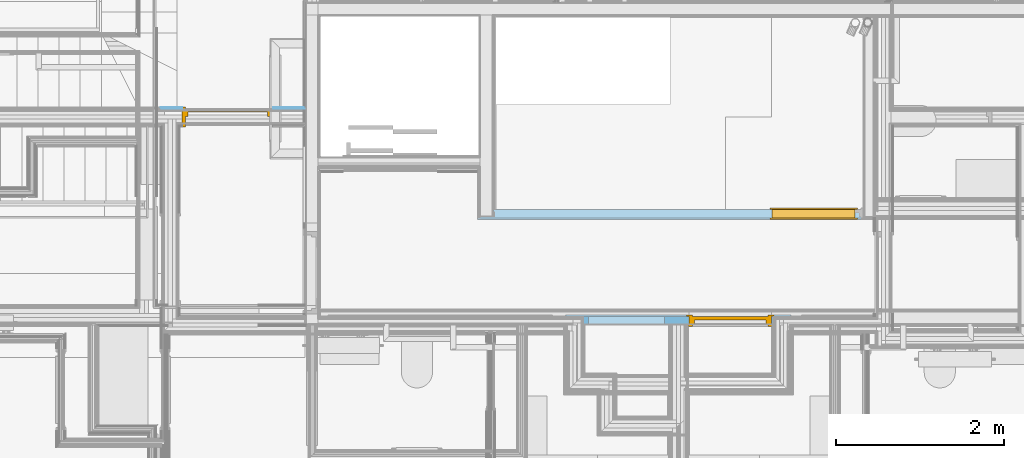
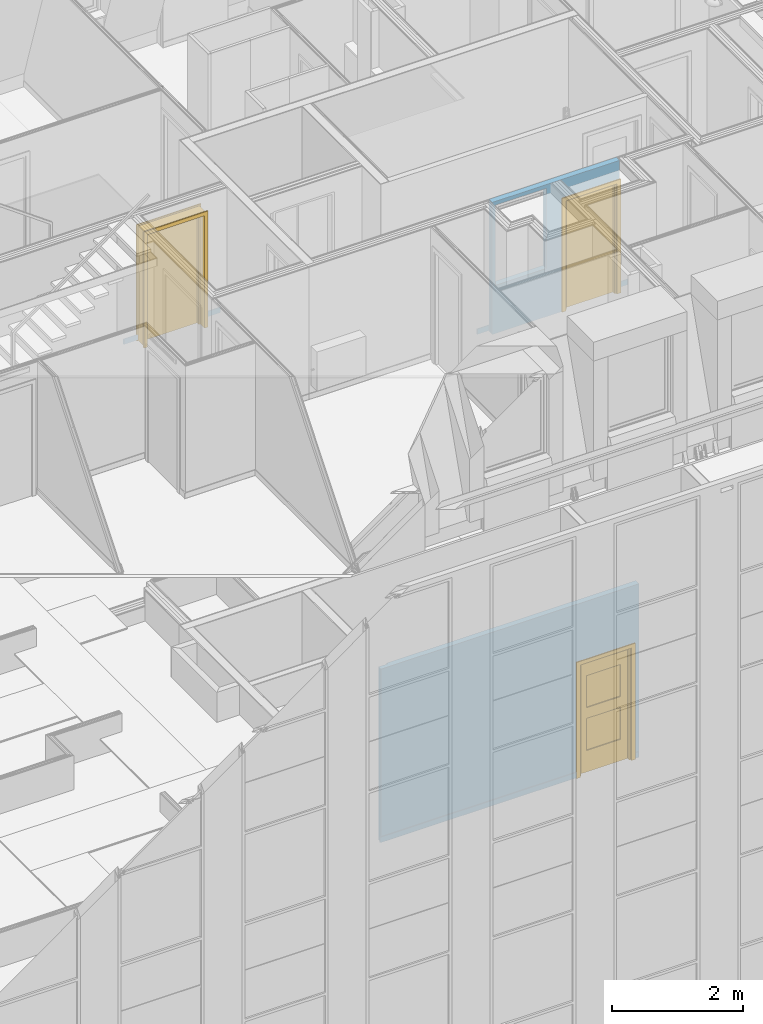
# One storey, part 83 of 169: 3 doors, 4 openings, plus 3 elements that do not belong to this part.
"""IFC2X3 building model written with IfcOpenShell, lengths in metres."""

from ifc_helpers import new_model, entity, si_unit, converted_unit, derived_unit, money_unit, direction, frame, frame_2d, origin_with_axes, place, context, subcontext, project, spatial, polyline, rectangle, outline, extrude, clip, bounded_halfspace, faceted_brep, material, layer, layer_set, layer_usage, type_object, element, fill, save


model = new_model("IFC2X3")

# Units and contexts
model_context = context("Model", 3, precision=1e-05, world=origin_with_axes(), true_north=direction((0.0, 1.0)))
body_context = subcontext(model_context, "Body", "Model", "MODEL_VIEW", scale=1.0)
ifc_project = project(units=[si_unit("LENGTHUNIT", "METRE"), si_unit("AREAUNIT", "SQUARE_METRE"), si_unit("VOLUMEUNIT", "CUBIC_METRE"), si_unit("ABSORBEDDOSEUNIT", "GRAY"), si_unit("AMOUNTOFSUBSTANCEUNIT", "MOLE"), si_unit("DOSEEQUIVALENTUNIT", "SIEVERT"), si_unit("ELECTRICCAPACITANCEUNIT", "FARAD"), si_unit("ELECTRICCHARGEUNIT", "COULOMB"), si_unit("ELECTRICCONDUCTANCEUNIT", "SIEMENS"), si_unit("ELECTRICCURRENTUNIT", "AMPERE"), si_unit("ELECTRICRESISTANCEUNIT", "OHM"), si_unit("ELECTRICVOLTAGEUNIT", "VOLT"), si_unit("ENERGYUNIT", "JOULE"), si_unit("FORCEUNIT", "NEWTON"), si_unit("FREQUENCYUNIT", "HERTZ"), si_unit("ILLUMINANCEUNIT", "LUX"), si_unit("INDUCTANCEUNIT", "HENRY"), si_unit("LUMINOUSFLUXUNIT", "LUMEN"), si_unit("LUMINOUSINTENSITYUNIT", "CANDELA"), si_unit("MAGNETICFLUXDENSITYUNIT", "TESLA"), si_unit("MAGNETICFLUXUNIT", "WEBER"), si_unit("MASSUNIT", "GRAM"), converted_unit("PLANEANGLEUNIT", "degree", entity("IfcReal", 0.0174532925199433), si_unit("PLANEANGLEUNIT", "RADIAN"), dimensions=[0, 0, 0, 0, 0, 0, 0]), si_unit("POWERUNIT", "WATT"), si_unit("PRESSUREUNIT", "PASCAL"), si_unit("RADIOACTIVITYUNIT", "BECQUEREL"), si_unit("SOLIDANGLEUNIT", "STERADIAN"), si_unit("THERMODYNAMICTEMPERATUREUNIT", "KELVIN"), si_unit("TIMEUNIT", "SECOND"), derived_unit("ACCELERATIONUNIT", [(si_unit("LENGTHUNIT", "METRE"), 1), (si_unit("TIMEUNIT", "SECOND"), -2)]), derived_unit("ANGULARVELOCITYUNIT", [(converted_unit("PLANEANGLEUNIT", "degree", entity("IfcReal", 0.0174532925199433), si_unit("PLANEANGLEUNIT", "RADIAN"), dimensions=[0, 0, 0, 0, 0, 0, 0]), 1), (si_unit("TIMEUNIT", "SECOND"), -1)]), derived_unit("CURVATUREUNIT", [(converted_unit("PLANEANGLEUNIT", "degree", entity("IfcReal", 0.0174532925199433), si_unit("PLANEANGLEUNIT", "RADIAN"), dimensions=[0, 0, 0, 0, 0, 0, 0]), 1), (si_unit("LENGTHUNIT", "METRE"), -1)]), derived_unit("DYNAMICVISCOSITYUNIT", [(si_unit("PRESSUREUNIT", "PASCAL"), 1), (si_unit("TIMEUNIT", "SECOND"), 1)]), derived_unit("HEATFLUXDENSITYUNIT", [(si_unit("POWERUNIT", "WATT"), 1), (si_unit("LENGTHUNIT", "METRE"), -2)]), derived_unit("HEATINGVALUEUNIT", [(si_unit("ENERGYUNIT", "JOULE"), 1), (si_unit("MASSUNIT", "GRAM"), -1)]), derived_unit("INTEGERCOUNTRATEUNIT", [(si_unit("TIMEUNIT", "SECOND"), -1)]), derived_unit("IONCONCENTRATIONUNIT", [(si_unit("MASSUNIT", "GRAM"), 1), (si_unit("VOLUMEUNIT", "CUBIC_METRE"), -1)]), derived_unit("ISOTHERMALMOISTURECAPACITYUNIT", [(si_unit("VOLUMEUNIT", "CUBIC_METRE"), 1), (si_unit("MASSUNIT", "GRAM"), -1)]), derived_unit("KINEMATICVISCOSITYUNIT", [(si_unit("AREAUNIT", "SQUARE_METRE"), 1), (si_unit("TIMEUNIT", "SECOND"), -1)]), derived_unit("LINEARFORCEUNIT", [(si_unit("FORCEUNIT", "NEWTON"), 1), (si_unit("LENGTHUNIT", "METRE"), -1)]), derived_unit("LINEARMOMENTUNIT", [(si_unit("FORCEUNIT", "NEWTON"), 1), (si_unit("LENGTHUNIT", "METRE"), -1)]), derived_unit("LINEARSTIFFNESSUNIT", [(si_unit("FORCEUNIT", "NEWTON"), 1), (si_unit("LENGTHUNIT", "METRE"), -1)]), derived_unit("LINEARVELOCITYUNIT", [(si_unit("LENGTHUNIT", "METRE"), 1), (si_unit("TIMEUNIT", "SECOND"), -1)]), derived_unit("LUMINOUSINTENSITYDISTRIBUTIONUNIT", [(si_unit("LUMINOUSINTENSITYUNIT", "CANDELA"), 1), (si_unit("LUMINOUSFLUXUNIT", "LUMEN"), -1)]), derived_unit("MASSDENSITYUNIT", [(si_unit("MASSUNIT", "GRAM"), 1), (si_unit("VOLUMEUNIT", "CUBIC_METRE"), -1)]), derived_unit("MASSFLOWRATEUNIT", [(si_unit("MASSUNIT", "GRAM"), 1), (si_unit("TIMEUNIT", "SECOND"), -1)]), derived_unit("MASSPERLENGTHUNIT", [(si_unit("MASSUNIT", "GRAM"), 1), (si_unit("LENGTHUNIT", "METRE"), -1)]), derived_unit("MODULUSOFELASTICITYUNIT", [(si_unit("FORCEUNIT", "NEWTON"), 1), (si_unit("AREAUNIT", "SQUARE_METRE"), -1)]), derived_unit("MODULUSOFLINEARSUBGRADEREACTIONUNIT", [(si_unit("FORCEUNIT", "NEWTON"), 1), (si_unit("LENGTHUNIT", "METRE"), -2)]), derived_unit("MODULUSOFROTATIONALSUBGRADEREACTIONUNIT", [(si_unit("FORCEUNIT", "NEWTON"), 1), (si_unit("LENGTHUNIT", "METRE"), 1)]), derived_unit("MODULUSOFSUBGRADEREACTIONUNIT", [(si_unit("FORCEUNIT", "NEWTON"), 1), (si_unit("VOLUMEUNIT", "CUBIC_METRE"), -1)]), derived_unit("MOISTUREDIFFUSIVITYUNIT", [(si_unit("VOLUMEUNIT", "CUBIC_METRE"), 1), (si_unit("TIMEUNIT", "SECOND"), -1)]), derived_unit("MOLECULARWEIGHTUNIT", [(si_unit("MASSUNIT", "GRAM"), 1), (si_unit("AMOUNTOFSUBSTANCEUNIT", "MOLE"), -1)]), derived_unit("PLANARFORCEUNIT", [(si_unit("FORCEUNIT", "NEWTON"), 1), (si_unit("LENGTHUNIT", "METRE"), -2)]), derived_unit("ROTATIONALFREQUENCYUNIT", [(si_unit("TIMEUNIT", "SECOND"), -1)]), derived_unit("ROTATIONALMASSUNIT", [(si_unit("MASSUNIT", "GRAM"), 1), (si_unit("LENGTHUNIT", "METRE"), 2)]), derived_unit("ROTATIONALSTIFFNESSUNIT", [(si_unit("FORCEUNIT", "NEWTON"), 1), (si_unit("LENGTHUNIT", "METRE"), 1), (converted_unit("PLANEANGLEUNIT", "degree", entity("IfcReal", 0.0174532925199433), si_unit("PLANEANGLEUNIT", "RADIAN"), dimensions=[0, 0, 0, 0, 0, 0, 0]), -1)]), derived_unit("SECTIONAREAINTEGRALUNIT", [(si_unit("LENGTHUNIT", "METRE"), 5)]), derived_unit("SECTIONMODULUSUNIT", [(si_unit("LENGTHUNIT", "METRE"), 3)]), derived_unit("SHEARMODULUSUNIT", [(si_unit("FORCEUNIT", "NEWTON"), 1), (si_unit("AREAUNIT", "SQUARE_METRE"), -1)]), derived_unit("SOUNDPOWERUNIT", [(si_unit("ENERGYUNIT", "JOULE"), 1), (si_unit("TIMEUNIT", "SECOND"), -1)]), derived_unit("SPECIFICHEATCAPACITYUNIT", [(si_unit("FORCEUNIT", "NEWTON"), 1), (si_unit("MASSUNIT", "GRAM"), -1), (si_unit("THERMODYNAMICTEMPERATUREUNIT", "KELVIN"), -1)]), derived_unit("TEMPERATUREGRADIENTUNIT", [(si_unit("THERMODYNAMICTEMPERATUREUNIT", "KELVIN"), 1), (si_unit("LENGTHUNIT", "METRE"), -1)]), derived_unit("THERMALADMITTANCEUNIT", [(si_unit("POWERUNIT", "WATT"), 1), (si_unit("AREAUNIT", "SQUARE_METRE"), -1), (si_unit("THERMODYNAMICTEMPERATUREUNIT", "KELVIN"), -1)]), derived_unit("THERMALCONDUCTANCEUNIT", [(si_unit("POWERUNIT", "WATT"), 1), (si_unit("LENGTHUNIT", "METRE"), -1), (si_unit("THERMODYNAMICTEMPERATUREUNIT", "KELVIN"), -1)]), derived_unit("THERMALEXPANSIONCOEFFICIENTUNIT", [(si_unit("THERMODYNAMICTEMPERATUREUNIT", "KELVIN"), -1)]), derived_unit("THERMALRESISTANCEUNIT", [(si_unit("AREAUNIT", "SQUARE_METRE"), 1), (si_unit("POWERUNIT", "WATT"), -1)]), derived_unit("THERMALTRANSMITTANCEUNIT", [(si_unit("POWERUNIT", "WATT"), 1), (si_unit("AREAUNIT", "SQUARE_METRE"), -1), (si_unit("THERMODYNAMICTEMPERATUREUNIT", "KELVIN"), -1)]), derived_unit("TORQUEUNIT", [(si_unit("FORCEUNIT", "NEWTON"), 1), (si_unit("LENGTHUNIT", "METRE"), 1)]), derived_unit("VAPORPERMEABILITYUNIT", [(si_unit("MASSUNIT", "GRAM"), 1), (si_unit("TIMEUNIT", "SECOND"), -1)]), derived_unit("VOLUMETRICFLOWRATEUNIT", [(si_unit("VOLUMEUNIT", "CUBIC_METRE"), 1), (si_unit("TIMEUNIT", "SECOND"), -1)]), derived_unit("WARPINGCONSTANTUNIT", [(si_unit("LENGTHUNIT", "METRE"), 6)]), derived_unit("WARPINGMOMENTUNIT", [(si_unit("FORCEUNIT", "NEWTON"), 1), (si_unit("LENGTHUNIT", "METRE"), 2)]), money_unit("GBP")], contexts=[model_context])

# Site, building, storey
site_placement = place(None, origin_with_axes())
site = spatial("IfcSite", under=ifc_project, at=site_placement, Name="Site", CompositionType="ELEMENT")
building_placement = place(site_placement, origin_with_axes())
building = spatial("IfcBuilding", under=site, at=building_placement, Name="Building01", CompositionType="ELEMENT")
storey_placement = place(building_placement, frame((0.0, 0.0, 5.15), z_axis=(0.0, 0.0, 1.0), x_axis=(1.0, 0.0, 0.0)))
storey = spatial("IfcBuildingStorey", under=building, at=storey_placement, Name="1F", CompositionType="ELEMENT", Elevation=5.15)

# Wall, opening
ifc_material_1 = material(Name="A_BSUK_Walls_Timber")
ifc_layer_1 = layer(ifc_material_1, 0.015, ventilated=False)
ifc_layer_set_1 = layer_set([ifc_layer_1])
ifc_layer_usage_1 = layer_usage(ifc_layer_set_1, "AXIS2", "POSITIVE", 0.0)
wall_type_1 = type_object("IfcWallType", Name="default", PredefinedType="NOTDEFINED")
wall_1_placement = place(storey_placement, frame((9.045, 7.564939, 9.845), z_axis=(0.0, 0.0, 1.0), x_axis=(-1.0, 0.0, 0.0)))
wall_1 = element("IfcWallStandardCase", 1, at=wall_1_placement, inside=storey, type_object=wall_type_1, material=ifc_layer_usage_1, Name="default", ObjectType="default", context=body_context, shape_type="SweptSolid", body=[
    extrude(outline(polyline([(1.685, 0.015), (-0.015, 0.015), (0.0, 0.0), (1.7, 0.0), (1.685, 0.015)])), origin_with_axes(), (0.0, 0.0, 1.0), 0.1),
])
opening_1_placement = place(wall_1_placement, frame((0.359, 0.0, -0.015), z_axis=(0.0, 0.0, 1.0), x_axis=(1.0, 0.0, 0.0)))
opening_1 = element("IfcOpeningElement", 2, at=opening_1_placement, cuts=wall_1, Name="Opening", ObjectType="Opening", context=body_context, shape_type="SweptSolid", body=[
    extrude(rectangle(XDim=2.142, YDim=1.084, at=frame_2d((-0.542, 1.071), x_axis=(0.0, -1.0))), frame((0.0, 0.0, 0.0), z_axis=(0.0, 1.0, 0.0), x_axis=(-1.0, 0.0, 0.0)), (0.0, 0.0, 1.0), 0.015),
])

# Space
space_1_placement = place(storey_placement, frame((9.480024, 10.099939, 9.86), z_axis=(0.0, 0.0, 1.0), x_axis=(-1.0, 0.0, 0.0)))
space_1 = spatial("IfcSpace", under=storey, at=space_1_placement, Name="corridor (protected)", CompositionType="ELEMENT", InteriorOrExteriorSpace="NOTDEFINED")

# Door
ifc_material_2 = material(Name="A_BSUK_Doors")
door_style_1 = type_object("IfcDoorStyle", Name="A-Doors-SingleFlush", ConstructionType="USERDEFINED", OperationType="SINGLE_SWING_RIGHT", ParameterTakesPrecedence=False, Sizeable=False)
door_1_placement = place(opening_1_placement, frame((1.042, 0.015, 0.0), z_axis=(0.0, 0.0, 1.0), x_axis=(-1.0, 0.0, 0.0)))
door_1 = element("IfcDoor", 3, at=door_1_placement, inside=space_1, type_object=door_style_1, material=ifc_material_2, Name="4.25", ObjectType="A-Doors-SingleFlush", OverallHeight=2.142, OverallWidth=1.084, context=body_context, shape_type="Brep", body=[
    faceted_brep([(1.0, -0.219, 0.0), (1.069, -0.219, 0.0), (1.069, -0.219, 2.169), (-0.069, -0.219, 2.169), (-0.069, -0.219, 0.0), (0.0, -0.219, 0.0), (0.0, -0.219, 2.1), (1.0, -0.219, 2.1), (-0.069, -0.2, 0.0), (-0.069, -0.2, 2.169), (1.069, -0.2, 2.169), (1.069, -0.2, 0.0), (1.0, 0.019, 0.0), (1.069, 0.019, 0.0), (1.069, 0.0, 0.0), (1.042, 0.0, 0.0), (1.042, -0.2, 0.0), (1.0, 0.019, 2.1), (0.0, 0.019, 2.1), (0.0, 0.019, 0.0), (-0.069, 0.019, 0.0), (-0.069, 0.019, 2.169), (1.069, 0.019, 2.169), (1.069, 0.0, 2.169), (1.042, -0.2, 2.142), (1.042, 0.0, 2.142), (-0.042, -0.2, 2.142), (-0.042, 0.0, 2.142), (-0.042, -0.2, 0.0), (-0.042, 0.0, 0.0), (-0.069, 0.0, 2.169), (-0.069, 0.0, 0.0)], [[[0, 1, 2, 3, 4, 5, 6, 7]], [[8, 4, 3, 9]], [[10, 2, 1, 11]], [[9, 3, 2, 10]], [[12, 13, 14, 15, 16, 11, 1, 0]], [[7, 17, 12, 0]], [[6, 18, 17, 7]], [[18, 19, 20, 21, 22, 13, 12, 17]], [[5, 19, 18, 6]], [[13, 22, 23, 14]], [[24, 16, 15, 25]], [[26, 24, 25, 27]], [[11, 16, 24, 26, 28, 8, 9, 10]], [[27, 29, 28, 26]], [[25, 15, 14, 23, 30, 31, 29, 27]], [[5, 4, 8, 28, 29, 31, 20, 19]], [[30, 21, 20, 31]], [[23, 22, 21, 30]]]),
    faceted_brep([(0.0, -0.09, 2.1), (0.0, -0.04, 2.1), (0.0, -0.04, 0.0), (0.0, -0.09, 0.0), (0.975, -0.09, 0.0), (1.0, -0.09, 0.0), (1.0, -0.09, 2.1), (0.025, -0.09, 0.0), (0.025, -0.09, 2.075), (0.975, -0.09, 2.075), (0.975, -0.04, 0.0), (1.0, -0.04, 0.0), (1.0, -0.04, 2.1), (0.025, -0.04, 2.075), (0.025, -0.04, 0.0), (0.975, -0.04, 2.075)], [[[0, 1, 2, 3]], [[4, 5, 6, 0, 3, 7, 8, 9]], [[10, 11, 5, 4]], [[6, 12, 1, 0]], [[5, 11, 12, 6]], [[13, 14, 2, 1, 12, 11, 10, 15]], [[7, 14, 13, 8]], [[7, 3, 2, 14]], [[9, 15, 10, 4]], [[8, 13, 15, 9]]]),
    faceted_brep([(1.0, -0.04, 0.0), (1.0, 0.0, 0.0), (1.0, 0.0, 2.1), (1.0, -0.04, 2.1), (0.0, -0.04, 2.1), (0.0, 0.0, 2.1), (0.0, 0.0, 0.0), (0.0, -0.04, 0.0)], [[[0, 1, 2, 3]], [[4, 5, 6, 7]], [[7, 6, 1, 0]], [[3, 4, 7, 0]], [[3, 2, 5, 4]], [[1, 6, 5, 2]]]),
])

fill(opening_1, door_1)

# Wall, opening
ifc_material_3 = material(Name="A_BSUK_WallInternal_Finishes_Plasterboard")
ifc_layer_2 = layer(ifc_material_3, 0.013, ventilated=False)
ifc_layer_3 = layer(ifc_material_3, 0.012, ventilated=False)
ifc_material_4 = material(Name="Air Cavity")
ifc_layer_4 = layer(ifc_material_4, 0.05, ventilated=False)
ifc_layer_set_2 = layer_set([ifc_layer_1, ifc_layer_2, ifc_layer_3, ifc_layer_4, ifc_layer_3, ifc_layer_2])
ifc_layer_usage_2 = layer_usage(ifc_layer_set_2, "AXIS2", "POSITIVE", 0.0)
wall_type_2 = type_object("IfcWallType", Name="SHE_A-Walls_Type03c_Firewall_F120_100mm", PredefinedType="NOTDEFINED")
wall_2_placement = place(storey_placement, frame((11.115, 6.25, 0.015), z_axis=(0.0, 0.0, 1.0), x_axis=(1.0, 0.0, 0.0)))
wall_2 = element("IfcWallStandardCase", 4, at=wall_2_placement, inside=storey, type_object=wall_type_2, material=ifc_layer_usage_2, Name="3C", ObjectType="SHE_A-Walls_Type03c_Firewall_F120_100mm", context=body_context, shape_type="Clipping", body=[
    clip(clip(extrude(outline(polyline([(4.585, 0.0), (4.585, 0.1), (0.185, 0.1), (0.185, 0.075), (0.03, 0.075), (0.03, 0.0), (0.0, 0.0), (0.0, -0.015), (4.57, -0.015), (4.585, 0.0)])), frame((0.0, 0.0, -0.015), z_axis=(0.0, 0.0, 1.0), x_axis=(1.0, 0.0, 0.0)), (0.0, 0.0, 1.0), 3.24), bounded_halfspace(frame((0.0, 0.0, 0.1), z_axis=(0.0, 0.0, 1.0), x_axis=(1.0, 0.0, 0.0)), False, frame((0.0, 0.0, 0.1), z_axis=(0.0, 0.0, 1.0), x_axis=(1.0, 0.0, 0.0)), polyline([(4.585, 0.0), (0.0, 0.0), (0.0, -0.015), (4.57, -0.015), (4.585, 0.0)]))), bounded_halfspace(frame((0.0, 0.0, 0.0), z_axis=(0.0, 0.0, -1.0), x_axis=(-1.0, 0.0, 0.0)), False, frame((0.0, 0.0, 0.0), z_axis=(0.0, 0.0, -1.0), x_axis=(-1.0, 0.0, 0.0)), polyline([(-4.57, -0.015), (0.0, -0.015), (0.0, 0.0), (-4.585, 0.0), (-4.57, -0.015)]))),
])
opening_2_placement = place(wall_2_placement, frame((3.501, -0.015, -0.03), z_axis=(0.0, 0.0, 1.0), x_axis=(1.0, 0.0, 0.0)))
opening_2 = element("IfcOpeningElement", 5, at=opening_2_placement, cuts=wall_2, Name="Opening", ObjectType="Opening", context=body_context, shape_type="SweptSolid", body=[
    extrude(rectangle(XDim=2.142, YDim=0.984, at=frame_2d((-0.492, 1.071), x_axis=(0.0, 1.0))), frame((0.0, 0.0, 0.0), z_axis=(0.0, 1.0, 0.0), x_axis=(-1.0, 0.0, 0.0)), (0.0, 0.0, 1.0), 0.115),
])

# Space
space_2_placement = place(storey_placement, frame((14.609584, 7.454282, 0.017932), z_axis=(0.0, 0.0, 1.0), x_axis=(-1.0, 0.0, 0.0)))
space_2 = spatial("IfcSpace", under=storey, at=space_2_placement, Name="landing", CompositionType="ELEMENT", InteriorOrExteriorSpace="NOTDEFINED")

# Door
door_style_2 = type_object("IfcDoorStyle", Name="A-Doors-SingleVisionPanels", ConstructionType="USERDEFINED", OperationType="SINGLE_SWING_RIGHT", ParameterTakesPrecedence=False, Sizeable=False)
door_2_placement = place(opening_2_placement, frame((0.042, 0.115, 0.015), z_axis=(0.0, 0.0, 1.0), x_axis=(1.0, 0.0, 0.0)))
door_2 = element("IfcDoor", 6, at=door_2_placement, inside=space_2, type_object=door_style_2, material=ifc_material_2, Name="1.04", ObjectType="A-Doors-SingleVisionPanels", OverallHeight=2.14200000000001, OverallWidth=0.984000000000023, context=body_context, shape_type="Brep", body=[
    faceted_brep([(0.9, -0.119, 0.0), (0.969, -0.119, 0.0), (0.969, -0.119, 2.169), (-0.069, -0.119, 2.169), (-0.069, -0.119, 0.0), (0.0, -0.119, 0.0), (0.0, -0.119, 2.1), (0.9, -0.119, 2.1), (-0.069, -0.1, 0.0), (-0.069, -0.1, 2.169), (0.969, -0.1, 2.169), (0.969, -0.1, 0.0), (0.9, 0.019, 0.0), (0.969, 0.019, 0.0), (0.969, 0.0, 0.0), (0.942, 0.0, 0.0), (0.942, -0.1, 0.0), (0.9, 0.019, 2.1), (0.0, 0.019, 2.1), (0.0, 0.019, 0.0), (-0.069, 0.019, 0.0), (-0.069, 0.019, 2.169), (0.969, 0.019, 2.169), (0.969, 0.0, 2.169), (0.942, -0.1, 2.142), (0.942, 0.0, 2.142), (-0.042, -0.1, 2.142), (-0.042, 0.0, 2.142), (-0.042, -0.1, 0.0), (-0.042, 0.0, 0.0), (-0.069, 0.0, 2.169), (-0.069, 0.0, 0.0)], [[[0, 1, 2, 3, 4, 5, 6, 7]], [[8, 4, 3, 9]], [[10, 2, 1, 11]], [[9, 3, 2, 10]], [[12, 13, 14, 15, 16, 11, 1, 0]], [[7, 17, 12, 0]], [[6, 18, 17, 7]], [[18, 19, 20, 21, 22, 13, 12, 17]], [[5, 19, 18, 6]], [[13, 22, 23, 14]], [[24, 16, 15, 25]], [[26, 24, 25, 27]], [[11, 16, 24, 26, 28, 8, 9, 10]], [[27, 29, 28, 26]], [[25, 15, 14, 23, 30, 31, 29, 27]], [[5, 4, 8, 28, 29, 31, 20, 19]], [[30, 21, 20, 31]], [[23, 22, 21, 30]]]),
    faceted_brep([(0.0, -0.09, 2.1), (0.0, -0.04, 2.1), (0.0, -0.04, 0.0), (0.0, -0.09, 0.0), (0.875, -0.09, 0.0), (0.9, -0.09, 0.0), (0.9, -0.09, 2.1), (0.025, -0.09, 0.0), (0.025, -0.09, 2.075), (0.875, -0.09, 2.075), (0.875, -0.04, 0.0), (0.9, -0.04, 0.0), (0.9, -0.04, 2.1), (0.025, -0.04, 2.075), (0.025, -0.04, 0.0), (0.875, -0.04, 2.075)], [[[0, 1, 2, 3]], [[4, 5, 6, 0, 3, 7, 8, 9]], [[10, 11, 5, 4]], [[6, 12, 1, 0]], [[5, 11, 12, 6]], [[13, 14, 2, 1, 12, 11, 10, 15]], [[7, 14, 13, 8]], [[7, 3, 2, 14]], [[9, 15, 10, 4]], [[8, 13, 15, 9]]]),
    faceted_brep([(0.75, -0.017, 1.0), (0.75, -0.023, 1.0), (0.75, -0.023, 0.4), (0.75, -0.017, 0.4), (0.15, -0.017, 0.4), (0.15, -0.023, 0.4), (0.15, -0.023, 1.0), (0.15, -0.017, 1.0)], [[[0, 1, 2, 3]], [[4, 5, 6, 7]], [[7, 6, 1, 0]], [[3, 4, 7, 0]], [[3, 2, 5, 4]], [[1, 6, 5, 2]]]),
    faceted_brep([(0.75, -0.017, 1.8), (0.75, -0.023, 1.8), (0.75, -0.023, 1.2), (0.75, -0.017, 1.2), (0.15, -0.017, 1.2), (0.15, -0.023, 1.2), (0.15, -0.023, 1.8), (0.15, -0.017, 1.8)], [[[0, 1, 2, 3]], [[4, 5, 6, 7]], [[7, 6, 1, 0]], [[3, 4, 7, 0]], [[3, 2, 5, 4]], [[1, 6, 5, 2]]]),
    faceted_brep([(0.15, -0.04, 1.8), (0.15, 0.0, 1.8), (0.75, 0.0, 1.8), (0.75, -0.04, 1.8), (0.15, -0.04, 0.4), (0.15, 0.0, 0.4), (0.15, 0.0, 1.0), (0.15, -0.04, 1.0), (0.75, -0.04, 0.4), (0.75, 0.0, 0.4), (0.75, -0.04, 1.0), (0.75, 0.0, 1.0), (0.0, 0.0, 2.1), (0.9, 0.0, 2.1), (0.9, 0.0, 0.0), (0.0, 0.0, 0.0), (0.15, 0.0, 1.2), (0.75, 0.0, 1.2), (0.0, -0.04, 2.1), (0.0, -0.04, 0.0), (0.9, -0.04, 2.1), (0.9, -0.04, 0.0), (0.15, -0.04, 1.2), (0.75, -0.04, 1.2)], [[[0, 1, 2, 3]], [[4, 5, 6, 7]], [[8, 9, 5, 4]], [[10, 11, 9, 8]], [[7, 6, 11, 10]], [[12, 13, 14, 15], [5, 9, 11, 6], [16, 17, 2, 1]], [[18, 12, 15, 19]], [[20, 13, 12, 18]], [[21, 14, 13, 20]], [[19, 15, 14, 21]], [[22, 16, 1, 0]], [[23, 17, 16, 22]], [[3, 2, 17, 23]], [[19, 21, 20, 18], [4, 7, 10, 8], [22, 0, 3, 23]]]),
])

fill(opening_2, door_2)

# Wall, openings
ifc_layer_set_3 = layer_set([ifc_layer_2, ifc_layer_3, ifc_layer_4, ifc_layer_3, ifc_layer_2, ifc_layer_1])
ifc_layer_usage_3 = layer_usage(ifc_layer_set_3, "AXIS2", "POSITIVE", 0.0)
wall_3_placement = place(storey_placement, frame((12.175, 5.08, 9.845), z_axis=(0.0, 0.0, 1.0), x_axis=(1.0, 0.0, 0.0)))
wall_3 = element("IfcWallStandardCase", 7, at=wall_3_placement, inside=storey, type_object=wall_type_2, material=ifc_layer_usage_3, Name="3C", ObjectType="SHE_A-Walls_Type03c_Firewall_F120_100mm", context=body_context, shape_type="Clipping", body=[
    clip(clip(extrude(outline(polyline([(2.45, 0.0), (2.65, 0.0), (2.665, 0.015), (-0.015, 0.015), (0.0, 0.0), (0.2, 0.0), (0.2, -0.1), (2.45, -0.1), (2.45, 0.0)])), frame((0.0, 0.0, -0.015), z_axis=(0.0, 0.0, 1.0), x_axis=(1.0, 0.0, 0.0)), (0.0, 0.0, 1.0), 2.468), bounded_halfspace(frame((0.0, 0.0, 0.1), z_axis=(0.0, 0.0, 1.0), x_axis=(1.0, 0.0, 0.0)), False, frame((0.0, 0.0, 0.1), z_axis=(0.0, 0.0, 1.0), x_axis=(1.0, 0.0, 0.0)), polyline([(2.665, 0.015), (-0.015, 0.015), (0.0, 0.0), (2.65, 0.0), (2.665, 0.015)]))), bounded_halfspace(frame((0.0, 0.0, 0.0), z_axis=(0.0, 0.0, -1.0), x_axis=(-1.0, 0.0, 0.0)), False, frame((0.0, 0.0, 0.0), z_axis=(0.0, 0.0, -1.0), x_axis=(-1.0, 0.0, 0.0)), polyline([(-2.65, 0.0), (0.0, 0.0), (0.015, 0.015), (-2.665, 0.015), (-2.65, 0.0)]))),
])
opening_3_placement = place(wall_3_placement, frame((1.45, -0.1, -0.045), z_axis=(0.0, 0.0, 1.0), x_axis=(1.0, 0.0, 0.0)))
opening_3 = element("IfcOpeningElement", 8, at=opening_3_placement, cuts=wall_3, Name="Opening", ObjectType="Opening", context=body_context, shape_type="SweptSolid", body=[
    extrude(rectangle(XDim=0.984, YDim=2.13, at=frame_2d((-0.492, 1.065), x_axis=(1.0, 0.0))), frame((0.0, 0.0, 0.0), z_axis=(0.0, 1.0, 0.0), x_axis=(-1.0, 0.0, 0.0)), (0.0, 0.0, 1.0), 0.115),
])
opening_4_placement = place(wall_3_placement, frame((0.258, -0.1, 0.885), z_axis=(0.0, 0.0, 1.0), x_axis=(1.0, 0.0, 0.0)))
element("IfcOpeningElement", 9, at=opening_4_placement, cuts=wall_3, Name="Opening", ObjectType="Recess", context=body_context, shape_type="SweptSolid", body=[
    extrude(rectangle(XDim=1.5, YDim=0.9, at=frame_2d((-0.45, 0.75), x_axis=(0.0, 1.0))), frame((0.0, 0.0, 0.0), z_axis=(0.0, 1.0, 0.0), x_axis=(-1.0, 0.0, 0.0)), (0.0, 0.0, 1.0), 0.1),
])

# Space
space_3_placement = place(storey_placement, frame((9.23, 5.08, 9.86), z_axis=(0.0, 0.0, 1.0), x_axis=(1.0, 0.0, 0.0)))
space_3 = spatial("IfcSpace", under=storey, at=space_3_placement, Name="hall (vented)", CompositionType="ELEMENT", InteriorOrExteriorSpace="NOTDEFINED")

# Door
door_style_3 = type_object("IfcDoorStyle", Name="A-Doors-DoubleFlush", ConstructionType="USERDEFINED", OperationType="DOUBLE_DOOR_SINGLE_SWING", ParameterTakesPrecedence=False, Sizeable=False)
door_3_placement = place(opening_3_placement, frame((0.042, 0.1, 0.03), z_axis=(0.0, 0.0, 1.0), x_axis=(1.0, 0.0, 0.0)))
door_3 = element("IfcDoor", 10, at=door_3_placement, inside=space_3, type_object=door_style_3, material=ifc_material_2, Name="4.03", ObjectType="A-Doors-DoubleFlush", OverallHeight=2.13, OverallWidth=0.984, context=body_context, shape_type="Brep", body=[
    faceted_brep([(0.0, -0.119, 2.058), (0.9, -0.119, 2.058), (0.9, -0.119, 0.0), (0.969, -0.119, 0.0), (0.969, -0.119, 2.127), (-0.069, -0.119, 2.127), (-0.069, -0.119, 0.0), (0.0, -0.119, 0.0), (0.969, -0.1, 2.127), (0.969, -0.1, 0.0), (-0.069, -0.1, 0.0), (-0.069, -0.1, 2.127), (-0.042, -0.1, 0.0), (-0.042, 0.0, 0.0), (-0.069, 0.0, 0.0), (-0.069, 0.019, 0.0), (0.0, 0.019, 0.0), (0.0, 0.019, 2.058), (0.9, 0.019, 2.058), (-0.069, 0.019, 2.127), (0.969, 0.019, 2.127), (0.969, 0.019, 0.0), (0.9, 0.019, 0.0), (-0.069, 0.0, 2.127), (-0.042, 0.0, 2.1), (-0.042, -0.1, 2.1), (0.942, 0.0, 2.1), (0.942, -0.1, 2.1), (0.942, -0.1, 0.0), (0.942, 0.0, 0.0), (0.969, 0.0, 0.0), (0.969, 0.0, 2.127)], [[[0, 1, 2, 3, 4, 5, 6, 7]], [[8, 4, 3, 9]], [[10, 6, 5, 11]], [[11, 5, 4, 8]], [[7, 6, 10, 12, 13, 14, 15, 16]], [[7, 16, 17, 0]], [[0, 17, 18, 1]], [[17, 16, 15, 19, 20, 21, 22, 18]], [[1, 18, 22, 2]], [[14, 23, 19, 15]], [[24, 13, 12, 25]], [[26, 24, 25, 27]], [[11, 8, 9, 28, 27, 25, 12, 10]], [[27, 28, 29, 26]], [[26, 29, 30, 31, 23, 14, 13, 24]], [[22, 21, 30, 29, 28, 9, 3, 2]], [[30, 21, 20, 31]], [[31, 20, 19, 23]]]),
    faceted_brep([(0.9, -0.09, 0.0), (0.9, -0.04, 0.0), (0.9, -0.04, 2.058), (0.9, -0.09, 2.058), (0.025, -0.09, 2.033), (0.875, -0.09, 2.033), (0.875, -0.09, 0.0), (0.0, -0.09, 2.058), (0.0, -0.09, 0.0), (0.025, -0.09, 0.0), (0.0, -0.04, 0.0), (0.025, -0.04, 0.0), (0.0, -0.04, 2.058), (0.025, -0.04, 2.033), (0.875, -0.04, 0.0), (0.875, -0.04, 2.033)], [[[0, 1, 2, 3]], [[4, 5, 6, 0, 3, 7, 8, 9]], [[9, 8, 10, 11]], [[3, 2, 12, 7]], [[7, 12, 10, 8]], [[13, 11, 10, 12, 2, 1, 14, 15]], [[5, 15, 14, 6]], [[14, 1, 0, 6]], [[9, 11, 13, 4]], [[4, 13, 15, 5]]]),
    faceted_brep([(0.0, -0.04, 2.058), (0.0, 0.0, 2.058), (0.0, 0.0, 0.0), (0.0, -0.04, 0.0), (0.45, -0.04, 0.0), (0.45, 0.0, 0.0), (0.45, 0.0, 2.058), (0.45, -0.04, 2.058)], [[[0, 1, 2, 3]], [[4, 5, 6, 7]], [[3, 2, 5, 4]], [[3, 4, 7, 0]], [[7, 6, 1, 0]], [[1, 6, 5, 2]]]),
    faceted_brep([(0.45, -0.04, 2.058), (0.45, 0.0, 2.058), (0.45, 0.0, 0.0), (0.45, -0.04, 0.0), (0.9, -0.04, 0.0), (0.9, 0.0, 0.0), (0.9, 0.0, 2.058), (0.9, -0.04, 2.058)], [[[0, 1, 2, 3]], [[4, 5, 6, 7]], [[3, 2, 5, 4]], [[3, 4, 7, 0]], [[7, 6, 1, 0]], [[1, 6, 5, 2]]]),
])

fill(opening_3, door_3)

save(model, "model.ifc")
